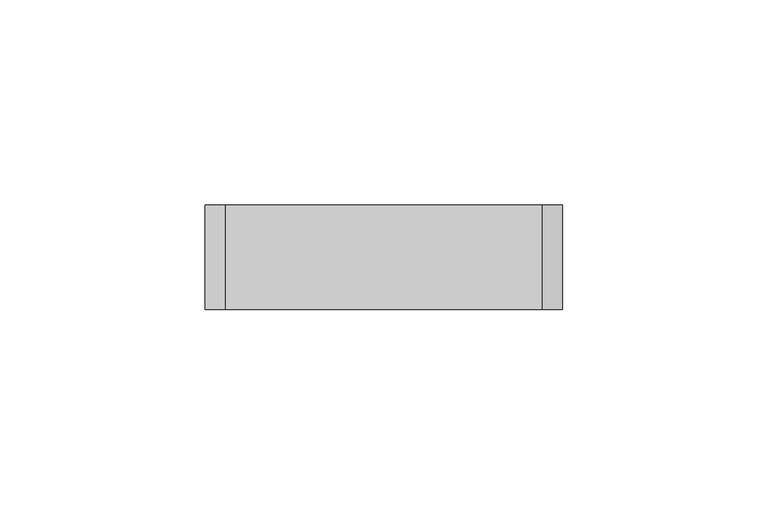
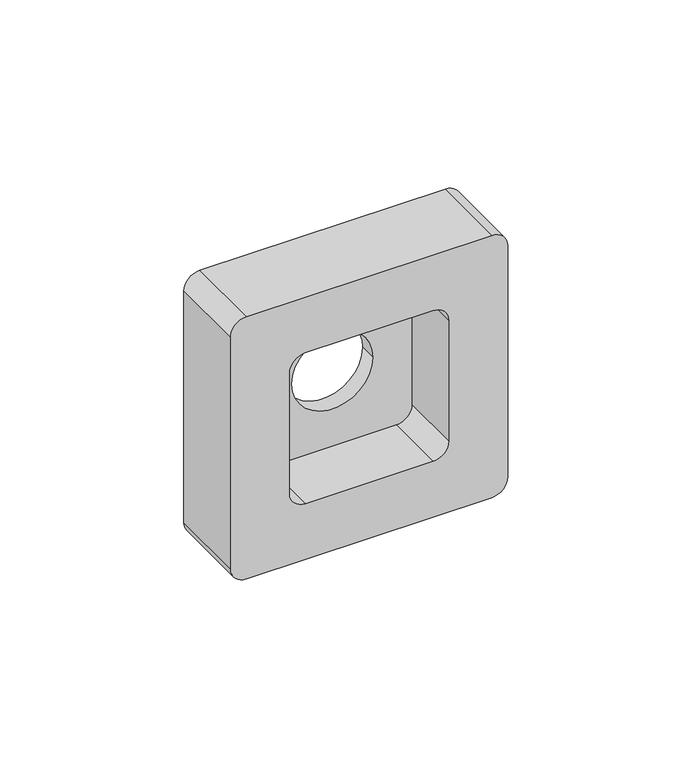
"""IFC4 building model written with IfcOpenShell, lengths in millimetres: proxy geometry, КНС_КоробкаМонтажнаяПод2МодуляЭлектроустановочныхИзделийPDD-N60_ILF_DKC : Коричневая."""

import ifcopenshell
import ifcopenshell.guid

model = None  # the IFC model being written
_history = None  # IfcOwnerHistory: only IFC2X3 demands one
_inside = {}  # id of a spatial element -> (the spatial element, [elements in it])
_under = {}  # id of a project, library or spatial element -> (it, [spatial elements below it])
_declared = {}  # id of a project -> (the project, [libraries it declares])
_typed = {}  # id of a type object -> (the type object, [elements of that type])
_made_of = {}  # id of a material, layer set ... -> (it, [elements and type objects made of it])


def new_model(schema):
    """Start an empty IFC model of exactly this schema.

    Asked for "IFC4X3", IfcOpenShell would pick the latest addendum, in which some entities
    have other attributes; the version numbers below select the first issue.
    IFC2X3 requires an IfcOwnerHistory on every rooted entity: one is made here for all.
    """
    global model, _history
    if schema == "IFC4X3":
        model = ifcopenshell.file(schema_version=(4, 3, 0, 0))
    else:
        model = ifcopenshell.file(schema=schema)
    _inside.clear()
    _under.clear()
    _declared.clear()
    _typed.clear()
    _made_of.clear()
    _history = None
    if model.schema == "IFC2X3":
        org = make("IfcOrganization", Name="unknown")
        user = make(
            "IfcPersonAndOrganization",
            ThePerson=make("IfcPerson", FamilyName="unknown"),
            TheOrganization=org,
        )
        app = make(
            "IfcApplication",
            ApplicationDeveloper=org,
            Version="unknown",
            ApplicationFullName="unknown",
            ApplicationIdentifier="unknown",
        )
        _history = make(
            "IfcOwnerHistory",
            OwningUser=user,
            OwningApplication=app,
            ChangeAction="ADDED",
            CreationDate=0,
        )
    return model


def make(cls, **values):
    """One entity of the class cls with the attributes given. An attribute that is None is left unset."""
    return model.create_entity(
        cls, **{name: value for name, value in values.items() if value is not None}
    )


def rooted(cls, **values):
    """An entity with a GlobalId (a new one), such as an element, a storey or a relation."""
    return make(cls, GlobalId=ifcopenshell.guid.new(), OwnerHistory=_history, **values)


def si_unit(unit_type, name, prefix=None):
    """IfcSIUnit, for example si_unit("LENGTHUNIT", "METRE", prefix="MILLI")."""
    return make("IfcSIUnit", UnitType=unit_type, Prefix=prefix, Name=name)


def assignment(units):
    """IfcUnitAssignment: the units of a project."""
    return None if units is None else make("IfcUnitAssignment", Units=units)


def point(xyz):
    """IfcCartesianPoint."""
    return None if xyz is None else make("IfcCartesianPoint", Coordinates=xyz)


def direction(xyz):
    """IfcDirection."""
    return None if xyz is None else make("IfcDirection", DirectionRatios=xyz)


def frame(location, z_axis=None, x_axis=None):
    """IfcAxis2Placement3D, a coordinate frame: its origin and axes. An axis left out is left unset."""
    return make(
        "IfcAxis2Placement3D",
        Location=point(location),
        Axis=direction(z_axis),
        RefDirection=direction(x_axis),
    )


def origin():
    """The frame at (0, 0, 0) with its axes left unset."""
    return frame((0.0, 0.0, 0.0))


def place(relative_to, where):
    """IfcLocalPlacement: puts the frame where relative to a parent placement (None: the world)."""
    return make(
        "IfcLocalPlacement", PlacementRelTo=relative_to, RelativePlacement=where
    )


def context(
    kind, dimensions, precision=None, world=None, true_north=None, identifier=None
):
    """IfcGeometricRepresentationContext, for example the 3D "Model" context."""
    return make(
        "IfcGeometricRepresentationContext",
        ContextIdentifier=identifier,
        ContextType=kind,
        CoordinateSpaceDimension=dimensions,
        Precision=precision,
        WorldCoordinateSystem=world,
        TrueNorth=true_north,
    )


def project(units=None, contexts=None):
    """IfcProject with its units and contexts."""
    return rooted(
        "IfcProject",
        Name="project",
        RepresentationContexts=contexts,
        UnitsInContext=assignment(units),
    )


def spatial(cls, under=None, at=None, **own):
    """A site, building, storey or space (cls), placed at a placement, below another one or the project."""
    s = rooted(cls, ObjectPlacement=at, **own)
    if under is not None:
        _under.setdefault(under.id(), (under, []))[1].append(s)
    return s


def polyline(points):
    """IfcPolyline through the points."""
    return make("IfcPolyline", Points=[point(p) for p in points])


def circle_curve(where, radius):
    """IfcCircle in the frame where."""
    return make("IfcCircle", Position=where, Radius=radius)


def shape(context_of_items, identifier, shape_type, items):
    """IfcShapeRepresentation: the items that make up one representation, for example the "Body"."""
    return make(
        "IfcShapeRepresentation",
        ContextOfItems=context_of_items,
        RepresentationIdentifier=identifier,
        RepresentationType=shape_type,
        Items=items,
    )


def source(mapping_origin, context_of_items, identifier, shape_type, items):
    """IfcRepresentationMap: a shape defined once, which mapped items show again and again."""
    return make(
        "IfcRepresentationMap",
        MappingOrigin=mapping_origin,
        MappedRepresentation=shape(context_of_items, identifier, shape_type, items),
    )


def transform(
    local_origin,
    x_axis=None,
    y_axis=None,
    z_axis=None,
    scale=None,
    scale2=None,
    scale3=None,
    uniform=True,
):
    """IfcCartesianTransformationOperator3D, or its non-uniform kind. x_axis, y_axis, z_axis: its Axis1, 2, 3."""
    if uniform:
        return make(
            "IfcCartesianTransformationOperator3D",
            Axis1=direction(x_axis),
            Axis2=direction(y_axis),
            LocalOrigin=point(local_origin),
            Scale=scale,
            Axis3=direction(z_axis),
        )
    return make(
        "IfcCartesianTransformationOperator3DnonUniform",
        Axis1=direction(x_axis),
        Axis2=direction(y_axis),
        LocalOrigin=point(local_origin),
        Scale=scale,
        Axis3=direction(z_axis),
        Scale2=scale2,
        Scale3=scale3,
    )


def mapped(mapping_source, mapping_target):
    """IfcMappedItem: shows the shape of a source again, moved by a transform."""
    return make(
        "IfcMappedItem", MappingSource=mapping_source, MappingTarget=mapping_target
    )


def made_of(thing, what):
    """Note that an element or type object is made of a material, layer set ...; save() writes the relation."""
    if what is not None:
        _made_of.setdefault(what.id(), (what, []))[1].append(thing)
    return thing


def element(
    cls,
    number,
    at=None,
    inside=None,
    cuts=None,
    type_object=None,
    material=None,
    context=None,
    identifier="Body",
    shape_type=None,
    held_by="IfcProductDefinitionShape",
    body=None,
    shapes=None,
    **own,
):
    """One element of the class cls, such as IfcWall. Its Tag is "e" and its number.

    at: its placement. inside: the storey or other place that contains it. cuts: it is an
    opening in that element (IfcRelVoidsElement). A single representation is given by context,
    identifier, shape_type and body (its items); several are given by shapes. held_by: the class
    of the entity that holds the representations. save() writes the other relations.
    """
    e = rooted(cls, Tag="e%d" % number, ObjectPlacement=at, **own)
    if body is not None:
        shapes = [shape(context, identifier, shape_type, body)]
    if shapes is not None:
        e.Representation = make(held_by, Representations=shapes)
    if inside is not None:
        _inside.setdefault(inside.id(), (inside, []))[1].append(e)
    if cuts is not None:
        rooted(
            "IfcRelVoidsElement", RelatingBuildingElement=cuts, RelatedOpeningElement=e
        )
    if type_object is not None:
        _typed.setdefault(type_object.id(), (type_object, []))[1].append(e)
    return made_of(e, material)


def aggregate(whole, parts):
    """IfcRelAggregates: a whole, such as a stair, and the parts it consists of."""
    return rooted("IfcRelAggregates", RelatingObject=whole, RelatedObjects=parts)


def save(model, path):
    """Write the relations noted so far, then the file.

    IfcRelAggregates (storeys below a building ...), IfcRelContainedInSpatialStructure (elements
    in a storey), IfcRelDefinesByType, IfcRelAssociatesMaterial and IfcRelDeclares: one each for
    every whole, place, type object, material and project.
    """
    for whole, parts in _under.values():
        aggregate(whole, parts)
    for where, things in _inside.values():
        rooted(
            "IfcRelContainedInSpatialStructure",
            RelatedElements=things,
            RelatingStructure=where,
        )
    for kind, things in _typed.values():
        rooted("IfcRelDefinesByType", RelatedObjects=things, RelatingType=kind)
    for what, things in _made_of.values():
        rooted("IfcRelAssociatesMaterial", RelatedObjects=things, RelatingMaterial=what)
    for by, libraries in _declared.values():
        rooted("IfcRelDeclares", RelatingContext=by, RelatedDefinitions=libraries)
    model.write(path)


def plane_surface(at):
    """IfcPlane: the flat surface through the origin of the frame at, square to its z axis."""
    return make("IfcPlane", Position=at)


def cylinder_surface(at, radius):
    """IfcCylindricalSurface: all points at the distance radius from the z axis of the frame at."""
    return make("IfcCylindricalSurface", Position=at, Radius=radius)


def revolved_surface(curve, axis_point, axis_direction):
    """IfcSurfaceOfRevolution: the curve turned about the line through axis_point along axis_direction."""
    return make(
        "IfcSurfaceOfRevolution",
        SweptCurve=make("IfcArbitraryOpenProfileDef", ProfileType="CURVE", Curve=curve),
        AxisPosition=make("IfcAxis1Placement", Location=point(axis_point), Axis=direction(axis_direction)),
    )


def advanced_brep(points, edges, surfaces, faces):
    """IfcAdvancedBrep: a solid bounded by faces that lie on surfaces and meet in shared edges.

    An edge is (start, end): straight between two places in points (the first is 0);
    or (start, end, curve); or (start, end, curve, False) where it runs against its curve.
    A face is (place in surfaces, loops), or (place, loops, False) where it looks against
    its surface's normal. A loop lists edges by number (the first is 1), with a minus sign
    where the edge is run from its end to its start. The first loop is the outer one.
    """
    corners = [point(p) for p in points]
    vertices = [make("IfcVertexPoint", VertexGeometry=c) for c in corners]
    made = []
    for start, end, *more in edges:
        made.append(
            make(
                "IfcEdgeCurve",
                EdgeStart=vertices[start],
                EdgeEnd=vertices[end],
                EdgeGeometry=more[0] if more else make("IfcPolyline", Points=[corners[start], corners[end]]),
                SameSense=more[1] if len(more) > 1 else True,
            )
        )
    hull = []
    for where, loops, *sense in faces:
        bounds = []
        for j, loop in enumerate(loops):
            ring = [make("IfcOrientedEdge", EdgeElement=made[abs(k) - 1], Orientation=k > 0) for k in loop]
            bounds.append(
                make(
                    "IfcFaceOuterBound" if j == 0 else "IfcFaceBound",
                    Bound=make("IfcEdgeLoop", EdgeList=ring),
                    Orientation=True,
                )
            )
        hull.append(make("IfcAdvancedFace", Bounds=bounds, FaceSurface=surfaces[where], SameSense=sense[0] if sense else True))
    return make("IfcAdvancedBrep", Outer=make("IfcClosedShell", CfsFaces=hull))


def electrical_fixtures_15421d68(model_context):
    return source(origin(), model_context, "Body", "AdvancedBrep", [
        advanced_brep(
        [(20.0, 20.0, 25.0), (-20.0, 20.0, 25.0), (-25.0, 20.0, 20.0), (-25.0, 20.0, -20.0), (-20.0, 20.0, -25.0), (20.0, 20.0, -25.0), (25.0, 20.0, -20.0), (25.0, 20.0, 20.0), (12.7, 20.0, 0.0), (-12.7, 20.0, 0.0), (20.0, 0.0, 25.0), (-20.0, 0.0, 25.0), (-25.0, 0.0, 20.0), (-25.0, 0.0, -20.0), (-20.0, 0.0, -25.0), (20.0, 0.0, -25.0), (25.0, 0.0, -20.0), (25.0, 0.0, 20.0), (38.5, 0.0, 43.5), (-38.5, 0.0, 43.5), (-43.5, 0.0, 38.5), (-43.5, 0.0, -38.5), (-38.5, 0.0, -43.5), (38.5, 0.0, -43.5), (43.5, 0.0, -38.5), (43.5, 0.0, 38.5), (38.5, 25.4, 43.5), (43.5, 25.4, 38.5), (43.5, 25.4, -38.5), (38.5, 25.4, -43.5), (-38.5, 25.4, -43.5), (-43.5, 25.4, -38.5), (-43.5, 25.4, 38.5), (-38.5, 25.4, 43.5), (-12.7, 25.4, 0.0), (12.7, 25.4, 0.0)],
        [
            (0, 1),
            (1, 2, circle_curve(frame((-20.0, 20.0, 20.0), z_axis=(0.0, -1.0, 0.0), x_axis=(1.0, 0.0, 0.0)), 5.0)),
            (2, 3),
            (3, 4, circle_curve(frame((-20.0, 20.0, -20.0), z_axis=(0.0, -1.0, 0.0), x_axis=(1.0, 0.0, 0.0)), 5.0)),
            (4, 5),
            (5, 6, circle_curve(frame((20.0, 20.0, -20.0), z_axis=(0.0, -1.0, 0.0), x_axis=(1.0, 0.0, 0.0)), 5.0)),
            (6, 7),
            (7, 0, circle_curve(frame((20.0, 20.0, 20.0), z_axis=(0.0, -1.0, 0.0), x_axis=(1.0, 0.0, 0.0)), 5.0)),
            (8, 9, circle_curve(frame((0.0, 20.0, 0.0), z_axis=(0.0, 1.0, 0.0), x_axis=(1.0, 0.0, 0.0)), 12.7)),
            (9, 8, circle_curve(frame((0.0, 20.0, 0.0), z_axis=(0.0, 1.0, 0.0), x_axis=(1.0, 0.0, 0.0)), 12.7)),
            (0, 10),
            (10, 11),
            (11, 1),
            (11, 12, circle_curve(frame((-20.0, 0.0, 20.0), z_axis=(0.0, -1.0, 0.0), x_axis=(1.0, 0.0, 0.0)), 5.0)),
            (12, 2),
            (12, 13),
            (13, 3),
            (13, 14, circle_curve(frame((-20.0, 0.0, -20.0), z_axis=(0.0, -1.0, 0.0), x_axis=(1.0, 0.0, 0.0)), 5.0)),
            (14, 4),
            (14, 15),
            (15, 5),
            (15, 16, circle_curve(frame((20.0, 0.0, -20.0), z_axis=(0.0, -1.0, 0.0), x_axis=(1.0, 0.0, 0.0)), 5.0)),
            (16, 6),
            (16, 17),
            (17, 7),
            (17, 10, circle_curve(frame((20.0, 0.0, 20.0), z_axis=(0.0, -1.0, 0.0), x_axis=(1.0, 0.0, 0.0)), 5.0)),
            (18, 19),
            (19, 20, circle_curve(frame((-38.5, 0.0, 38.5), z_axis=(0.0, -1.0, 0.0), x_axis=(1.0, 0.0, 0.0)), 5.0)),
            (20, 21),
            (21, 22, circle_curve(frame((-38.5, 0.0, -38.5), z_axis=(0.0, -1.0, 0.0), x_axis=(1.0, 0.0, 0.0)), 5.0)),
            (22, 23),
            (23, 24, circle_curve(frame((38.5, 0.0, -38.5), z_axis=(0.0, -1.0, 0.0), x_axis=(1.0, 0.0, 0.0)), 5.0)),
            (24, 25),
            (25, 18, circle_curve(frame((38.5, 0.0, 38.5), z_axis=(0.0, -1.0, 0.0), x_axis=(1.0, 0.0, 0.0)), 5.0)),
            (26, 27, circle_curve(frame((38.5, 25.4, 38.5), z_axis=(0.0, 1.0, 0.0), x_axis=(1.0, 0.0, 0.0)), 5.0)),
            (27, 28),
            (28, 29, circle_curve(frame((38.5, 25.4, -38.5), z_axis=(0.0, 1.0, 0.0), x_axis=(1.0, 0.0, 0.0)), 5.0)),
            (29, 30),
            (30, 31, circle_curve(frame((-38.5, 25.4, -38.5), z_axis=(0.0, 1.0, 0.0), x_axis=(1.0, 0.0, 0.0)), 5.0)),
            (31, 32),
            (32, 33, circle_curve(frame((-38.5, 25.4, 38.5), z_axis=(0.0, 1.0, 0.0), x_axis=(1.0, 0.0, 0.0)), 5.0)),
            (33, 26),
            (34, 35, circle_curve(frame((0.0, 25.4, 0.0), z_axis=(0.0, -1.0, 0.0), x_axis=(1.0, 0.0, 0.0)), 12.7)),
            (35, 34, circle_curve(frame((0.0, 25.4, 0.0), z_axis=(0.0, -1.0, 0.0), x_axis=(1.0, 0.0, 0.0)), 12.7)),
            (18, 26),
            (33, 19),
            (32, 20),
            (31, 21),
            (30, 22),
            (29, 23),
            (28, 24),
            (27, 25),
            (8, 35),
            (34, 9),
        ],
        [
            plane_surface(frame((-43.5, 20.0, 25.0), z_axis=(0.0, -1.0, 0.0), x_axis=(1.0, 0.0, 0.0))),
            plane_surface(frame((20.0, 0.0, 25.0), z_axis=(0.0, 0.0, -1.0), x_axis=(0.0, 1.0, 0.0))),
            revolved_surface(polyline([(-15.0, 0.0, 20.0), (-15.0, 20.0, 20.0)]), (-20.0, 20.0, 20.0), (0.0, -1.0, 0.0)),
            plane_surface(frame((-25.0, 0.0, 20.0), z_axis=(1.0, 0.0, 0.0), x_axis=(0.0, 1.0, 0.0))),
            revolved_surface(polyline([(-15.0, 0.0, -20.0), (-15.0, 20.0, -20.0)]), (-20.0, 20.0, -20.0), (0.0, -1.0, 0.0)),
            plane_surface(frame((-20.0, 0.0, -25.0), z_axis=(0.0, 0.0, 1.0), x_axis=(0.0, 1.0, 0.0))),
            revolved_surface(polyline([(25.0, 0.0, -20.0), (25.0, 20.0, -20.0)]), (20.0, 20.0, -20.0), (0.0, -1.0, 0.0)),
            plane_surface(frame((25.0, 0.0, -20.0), z_axis=(-1.0, 0.0, 0.0), x_axis=(0.0, 1.0, 0.0))),
            revolved_surface(polyline([(25.0, 0.0, 20.0), (25.0, 20.0, 20.0)]), (20.0, 20.0, 20.0), (0.0, -1.0, 0.0)),
            plane_surface(frame((-43.5, 0.0, 43.5), z_axis=(0.0, -1.0, 0.0), x_axis=(-1.0, 0.0, 0.0))),
            plane_surface(frame((-43.5, 25.4, 43.5), z_axis=(0.0, 1.0, 0.0), x_axis=(1.0, 0.0, 0.0))),
            plane_surface(frame((38.5, 0.0, 43.5), z_axis=(0.0, 0.0, 1.0), x_axis=(0.0, 1.0, 0.0))),
            cylinder_surface(frame((-38.5, 25.4, 38.5), z_axis=(0.0, -1.0, 0.0), x_axis=(1.0, 0.0, 0.0)), 5.0),
            plane_surface(frame((-43.5, 0.0, 38.5), z_axis=(-1.0, 0.0, 0.0), x_axis=(0.0, 1.0, 0.0))),
            cylinder_surface(frame((-38.5, 25.4, -38.5), z_axis=(0.0, -1.0, 0.0), x_axis=(1.0, 0.0, 0.0)), 5.0),
            plane_surface(frame((-38.5, 0.0, -43.5), z_axis=(0.0, 0.0, -1.0), x_axis=(0.0, 1.0, 0.0))),
            cylinder_surface(frame((38.5, 25.4, -38.5), z_axis=(0.0, -1.0, 0.0), x_axis=(1.0, 0.0, 0.0)), 5.0),
            plane_surface(frame((43.5, 0.0, -38.5), z_axis=(1.0, 0.0, 0.0), x_axis=(0.0, 1.0, 0.0))),
            cylinder_surface(frame((38.5, 25.4, 38.5), z_axis=(0.0, -1.0, 0.0), x_axis=(1.0, 0.0, 0.0)), 5.0),
            revolved_surface(polyline([(12.7, 20.0, 0.0), (12.7, 25.4, 0.0)]), (0.0, 25.4, 0.0), (0.0, -1.0, 0.0)),
        ],
        [
            (0, [[1, 2, 3, 4, 5, 6, 7, 8], [9, 10]]),
            (1, [[-1, 11, 12, 13]]),
            (2, [[-2, -13, 14, 15]]),
            (3, [[-3, -15, 16, 17]]),
            (4, [[-4, -17, 18, 19]]),
            (5, [[-5, -19, 20, 21]]),
            (6, [[-6, -21, 22, 23]]),
            (7, [[-7, -23, 24, 25]]),
            (8, [[-8, -25, 26, -11]]),
            (9, [[27, 28, 29, 30, 31, 32, 33, 34], [-12, -26, -24, -22, -20, -18, -16, -14]]),
            (10, [[35, 36, 37, 38, 39, 40, 41, 42], [43, 44]]),
            (11, [[-27, 45, -42, 46]]),
            (12, [[-28, -46, -41, 47]]),
            (13, [[-29, -47, -40, 48]]),
            (14, [[-30, -48, -39, 49]]),
            (15, [[-31, -49, -38, 50]]),
            (16, [[-32, -50, -37, 51]]),
            (17, [[-33, -51, -36, 52]]),
            (18, [[-34, -52, -35, -45]]),
            (19, [[53, -43, 54, -9]]),
            (19, [[-53, -10, -54, -44]]),
        ],
    ),
    ])


if __name__ == "__main__":
    model = new_model("IFC4")
    model_context = context("Model", 3, world=origin())
    ifc_project = project(units=[si_unit("LENGTHUNIT", "METRE", prefix="MILLI")], contexts=[model_context])
    site = spatial("IfcSite", under=ifc_project)
    building = spatial("IfcBuilding", under=site)
    placement = place(None, origin())
    electrical_fixtures_shape = electrical_fixtures_15421d68(model_context)
    element("IfcBuildingElementProxy", 1, Name="КНС_КоробкаМонтажнаяПод2МодуляЭлектроустановочныхИзделийPDD-N60_ILF_DKC : Коричневая", ObjectType="КНС_КоробкаМонтажнаяПод2МодуляЭлектроустановочныхИзделийPDD-N60_ILF_DKC : Коричневая", at=placement, inside=building, context=model_context, shape_type="MappedRepresentation", body=[
        mapped(electrical_fixtures_shape, transform((0.0, 0.0, 0.0), x_axis=(1.0, 0.0, 0.0), y_axis=(0.0, 1.0, 0.0), z_axis=(0.0, 0.0, 1.0))),
    ])
    save(model, "model.ifc")
